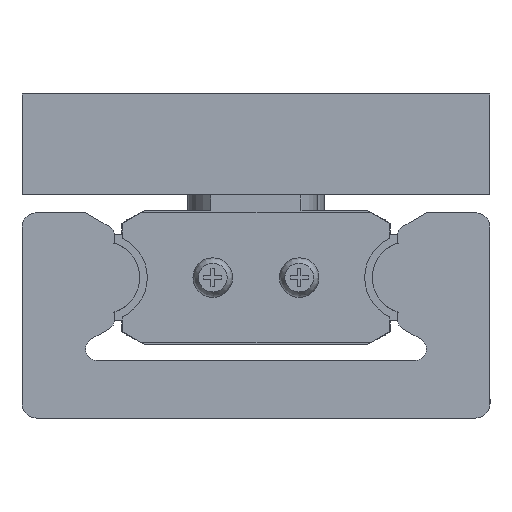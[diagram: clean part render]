
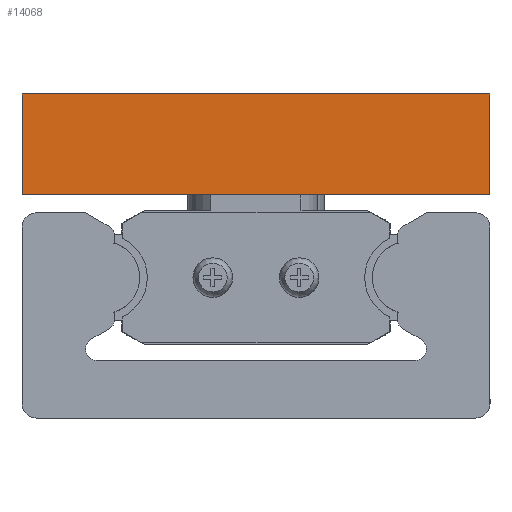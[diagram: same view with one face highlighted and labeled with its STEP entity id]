
A CAD part, left-side view. The second image highlights one B-rep face of the part: STEP entity #14068.
In plain terms, the highlighted planar face has unit normal (-1, 0, 0).
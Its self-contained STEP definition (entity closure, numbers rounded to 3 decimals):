
#13864=CARTESIAN_POINT('',(0.0,-32.5,25.5));
#13865=VERTEX_POINT('',#13864);
#13872=CARTESIAN_POINT('',(0.0,-32.5,11.5));
#13873=VERTEX_POINT('',#13872);
#13874=CARTESIAN_POINT('',(0.0,-32.5,25.5));
#13875=DIRECTION('',(0.0,0.0,-1.0));
#13876=VECTOR('',#13875,14.);
#13877=LINE('',#13874,#13876);
#13878=EDGE_CURVE('',#13865,#13873,#13877,.T.);
#13908=CARTESIAN_POINT('',(0.0,32.5,25.5));
#13909=VERTEX_POINT('',#13908);
#13916=CARTESIAN_POINT('',(0.0,32.5,25.5));
#13917=DIRECTION('',(0.0,-1.0,0.0));
#13918=VECTOR('',#13917,65.);
#13919=LINE('',#13916,#13918);
#13920=EDGE_CURVE('',#13909,#13865,#13919,.T.);
#13981=CARTESIAN_POINT('',(0.0,32.5,11.5));
#13982=VERTEX_POINT('',#13981);
#13989=CARTESIAN_POINT('',(0.0,32.5,11.5));
#13990=DIRECTION('',(0.0,0.0,1.0));
#13991=VECTOR('',#13990,14.);
#13992=LINE('',#13989,#13991);
#13993=EDGE_CURVE('',#13982,#13909,#13992,.T.);
#14017=CARTESIAN_POINT('',(0.0,-32.5,11.5));
#14018=DIRECTION('',(0.0,1.0,0.0));
#14019=VECTOR('',#14018,65.0);
#14020=LINE('',#14017,#14019);
#14021=EDGE_CURVE('',#13873,#13982,#14020,.T.);
#14057=CARTESIAN_POINT('',(0.0,0.,18.5));
#14058=DIRECTION('',(1.0,0.0,0.0));
#14059=DIRECTION('',(0.0,0.0,-1.0));
#14060=AXIS2_PLACEMENT_3D('',#14057,#14058,#14059);
#14061=PLANE('',#14060);
#14062=ORIENTED_EDGE('',*,*,#14021,.F.);
#14063=ORIENTED_EDGE('',*,*,#13878,.F.);
#14064=ORIENTED_EDGE('',*,*,#13920,.F.);
#14065=ORIENTED_EDGE('',*,*,#13993,.F.);
#14066=EDGE_LOOP('',(#14062,#14063,#14064,#14065));
#14067=FACE_OUTER_BOUND('',#14066,.T.);
#14068=ADVANCED_FACE('',(#14067),#14061,.F.);
